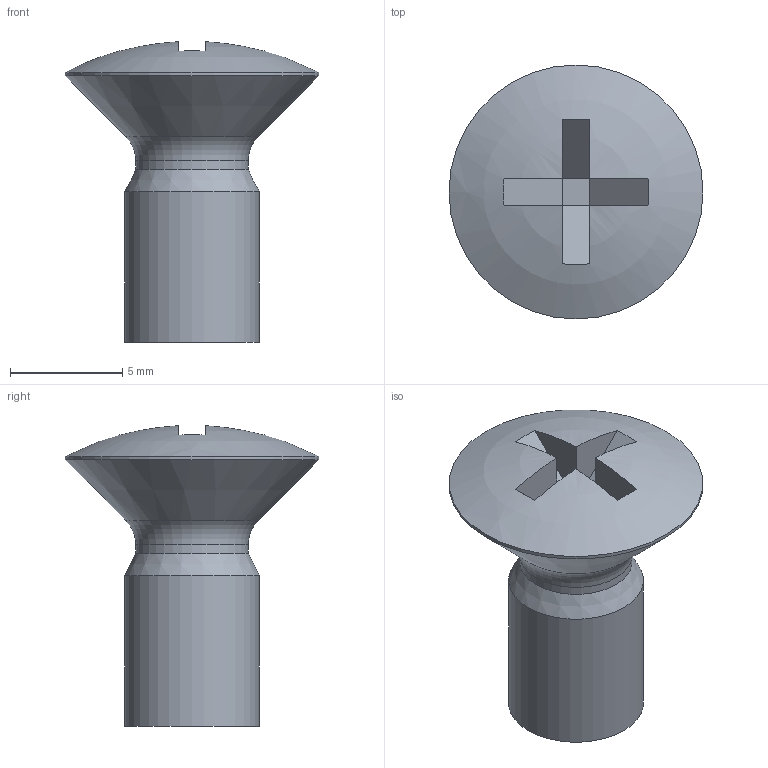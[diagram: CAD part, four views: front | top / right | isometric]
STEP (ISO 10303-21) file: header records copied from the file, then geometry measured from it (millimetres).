
FILE_DESCRIPTION(/* description */ ('Vis à tête fraisée bombée (type de tête standard) avec empreinte cruciforme de type H ou Z. Produit de classe A'),/* implementation_level */ '2;1');
FILE_NAME(/* name */ 'H:\5-Olympiades\47e\Sujet Régional\Etau\A donner aux candidats\2-Après-Midi\18-ISO 7047 - M6x12 - 4.8 - H.stp',/* time_stamp */ '2022-03-30T08:48:45+02:00',/* author */ ('Philippe'),/* organization */ (''),/* preprocessor_version */ 'ST-DEVELOPER v18',/* originating_system */ 'Autodesk Inventor 2020',/* authorisation */ '');
FILE_SCHEMA (('AUTOMOTIVE_DESIGN { 1 0 10303 214 3 1 1 }'));
Length unit declared in the file: millimetre
Products named in the file (1): ISO 7047 - M6x12 - 4.8 - H
Bounding box: 11.3 x 11.3 x 13.37 mm (x, y, z)
Volume: 468.6 mm3; surface area: 452 mm2
Topology: 1 solids, 1 shells, 21 faces, 53 edges, 34 vertices
Faces by surface type: plane 14, cylinder 3, cone 2, sphere 1, torus 1
Full cylindrical faces by diameter (mm): 5 x1, 6 x1, 11.3 x1
Entity records: 686 total; most frequent: DIRECTION 129, CARTESIAN_POINT 109, ORIENTED_EDGE 106, AXIS2_PLACEMENT_3D 54, EDGE_CURVE 53, VERTEX_POINT 34, CIRCLE 32, FACE_OUTER_BOUND 21
